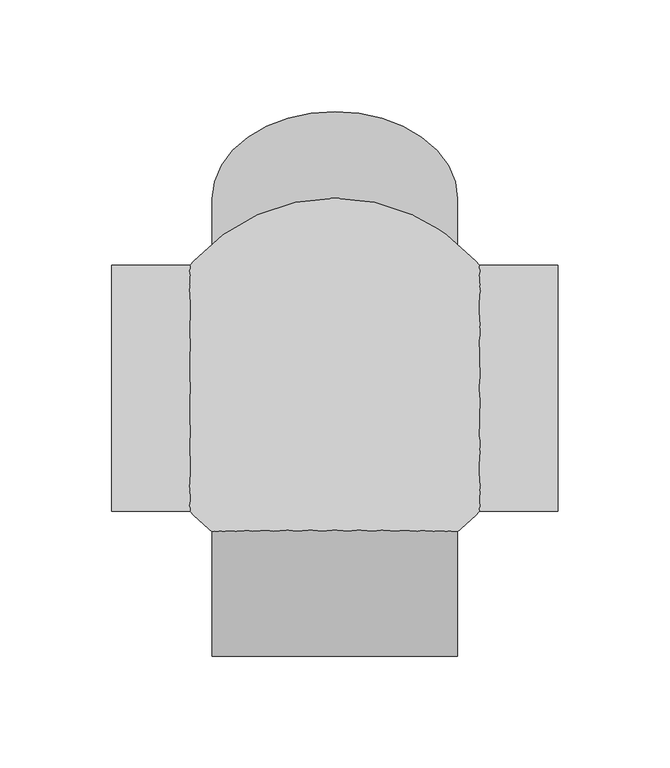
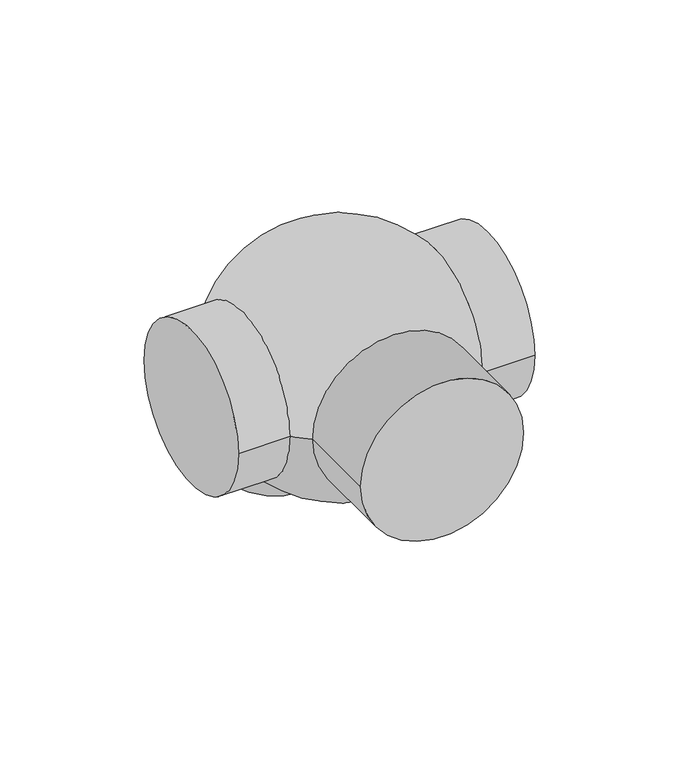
"""IFC4 building model written with IfcOpenShell, lengths in millimetres: pipe fitting geometry, NLRS_52_PIF_UN_PE kogel T-stuk 88,5° dubbel, aansluitingen 135° sprong_geb : DN60-150 / ø63-160."""

from ifc_helpers import new_model, si_unit, point, frame, origin, origin_with_axes, origin_2d, place, context, project, spatial, circle_curve, ellipse_curve, trimmed, segment, composite_curve, outline, extrude, source, transform, mapped, element, save
from ifc_brep_helpers import plane_surface, cylinder_surface, revolved_surface, advanced_brep


def pipe_fitting_8937aa88(model_context):
    return source(origin(), model_context, "Body", "SolidModel", [
        extrude(outline(composite_curve([segment(trimmed(circle_curve(origin_2d(), 55.0), [point((0.0, -55.0))], [point((0.0, 55.0))], False, "CARTESIAN"), True, "CONTINUOUS"), segment(trimmed(circle_curve(origin_2d(), 55.0), [point((0.0, 55.0))], [point((0.0, -55.0))], False, "CARTESIAN"), True, "CONTINUOUS")], self_intersect=False)), frame((0.0, -120.0, 0.0), z_axis=(0.0, 1.0, 0.0), x_axis=(0.0, 0.0, 1.0)), (0.0, 0.0, 1.0), 120.0),
        extrude(outline(composite_curve([segment(trimmed(circle_curve(origin_2d(), 55.0), [point((0.0, -55.0))], [point((0.0, 55.0))], False, "CARTESIAN"), True, "CONTINUOUS"), segment(trimmed(circle_curve(origin_2d(), 55.0), [point((0.0, 55.0))], [point((0.0, -55.0))], False, "CARTESIAN"), True, "CONTINUOUS")], self_intersect=False)), frame((0.0, 84.8528137, -84.8528137), z_axis=(0.0, -0.7071067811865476, 0.7071067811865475), x_axis=(0.0, 0.7071067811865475, 0.7071067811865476)), (0.0, 0.0, 1.0), 120.0),
        advanced_brep(
        [(0.0, -85.0, 0.0), (-64.807407, -55.0, 0.0), (-64.807407, 55.0, 0.0), (0.0, 85.0, 0.0), (64.807407, 55.0, 0.0), (64.807407, -55.0, 0.0), (100.0, -55.0, 0.0), (100.0, 55.0, 0.0), (-100.0, -55.0, 0.0), (-100.0, 55.0, 0.0)],
        [
            (0, 1, circle_curve(frame((0.0, 0.0, 0.0), z_axis=(0.0, 0.0, -1.0), x_axis=(1.0, 0.0, 0.0)), 85.0)),
            (1, 2, circle_curve(frame((-64.807407, 0.0, 0.0), z_axis=(1.0, 0.0, 0.0), x_axis=(0.0, 1.0, 0.0)), 55.0)),
            (2, 3, circle_curve(frame((0.0, 0.0, 0.0), z_axis=(0.0, 0.0, -1.0), x_axis=(1.0, 0.0, 0.0)), 85.0)),
            (3, 4, circle_curve(frame((0.0, 0.0, 0.0), z_axis=(0.0, 0.0, -1.0), x_axis=(-1.0, 0.0, 0.0)), 85.0)),
            (4, 5, circle_curve(frame((64.807407, 0.0, 0.0), z_axis=(-1.0, 0.0, 0.0), x_axis=(0.0, 1.0, 0.0)), 55.0)),
            (5, 0, circle_curve(frame((0.0, 0.0, 0.0), z_axis=(0.0, 0.0, -1.0), x_axis=(-1.0, 0.0, 0.0)), 85.0)),
            (5, 4, circle_curve(frame((64.807407, 0.0, 0.0), z_axis=(-1.0, 0.0, 0.0), x_axis=(0.0, 1.0, 0.0)), 55.0)),
            (2, 1, circle_curve(frame((-64.807407, 0.0, 0.0), z_axis=(1.0, 0.0, 0.0), x_axis=(0.0, 1.0, 0.0)), 55.0)),
            (6, 7, circle_curve(frame((100.0, 0.0, 0.0), z_axis=(1.0, 0.0, 0.0), x_axis=(0.0, 1.0, 0.0)), 55.0)),
            (7, 6, circle_curve(frame((100.0, 0.0, 0.0), z_axis=(1.0, 0.0, 0.0), x_axis=(0.0, 1.0, 0.0)), 55.0)),
            (8, 9, circle_curve(frame((-100.0, 0.0, 0.0), z_axis=(-1.0, 0.0, 0.0), x_axis=(0.0, 1.0, 0.0)), 55.0)),
            (9, 8, circle_curve(frame((-100.0, 0.0, 0.0), z_axis=(-1.0, 0.0, 0.0), x_axis=(0.0, 1.0, 0.0)), 55.0)),
            (6, 5),
            (4, 7),
            (9, 2),
            (1, 8),
        ],
        [
            revolved_surface(trimmed(ellipse_curve(origin_with_axes(), 85.0, 85.0), [point((0.0, 85.0, 0.0))], [point((0.0, -85.0, 0.0))], True, "CARTESIAN"), (0.0, 125.0, 0.0), (0.0, -1.0, 0.0)),
            plane_surface(frame((100.0, 55.0, 0.0), z_axis=(1.0, 0.0, 0.0), x_axis=(0.0, 0.0, 1.0))),
            plane_surface(frame((-100.0, 55.0, 0.0), z_axis=(-1.0, 0.0, 0.0), x_axis=(0.0, 0.0, -1.0))),
            cylinder_surface(frame((-100.0, 0.0, 0.0), z_axis=(1.0, 0.0, 0.0), x_axis=(0.0, 1.0, 0.0)), 55.0),
        ],
        [
            (0, [[1, 2, 3, 4, 5, 6]]),
            (0, [[-1, -6, 7, -4, -3, 8]]),
            (1, [[9, 10]]),
            (2, [[11, 12]]),
            (3, [[-9, 13, -5, 14]]),
            (3, [[-12, 15, -2, 16]]),
            (3, [[-10, -14, -7, -13]]),
            (3, [[-11, -16, -8, -15]]),
        ],
    ),
    ])


if __name__ == "__main__":
    model = new_model("IFC4")
    model_context = context("Model", 3, world=origin())
    ifc_project = project(units=[si_unit("LENGTHUNIT", "METRE", prefix="MILLI")], contexts=[model_context])
    site = spatial("IfcSite", under=ifc_project)
    building = spatial("IfcBuilding", under=site)
    placement = place(None, origin())
    pipe_fitting_shape = pipe_fitting_8937aa88(model_context)
    element("IfcPipeFitting", 1, ObjectType="NLRS_52_PIF_UN_PE kogel T-stuk 88,5° dubbel, aansluitingen 135° sprong_geb : DN60-150 / ø63-160", at=placement, inside=building, context=model_context, shape_type="MappedRepresentation", body=[
        mapped(pipe_fitting_shape, transform((0.0, 0.0, 0.0), x_axis=(1.0, 0.0, 0.0), y_axis=(0.0, 1.0, 0.0), z_axis=(0.0, 0.0, 1.0))),
    ])
    save(model, "model.ifc")
